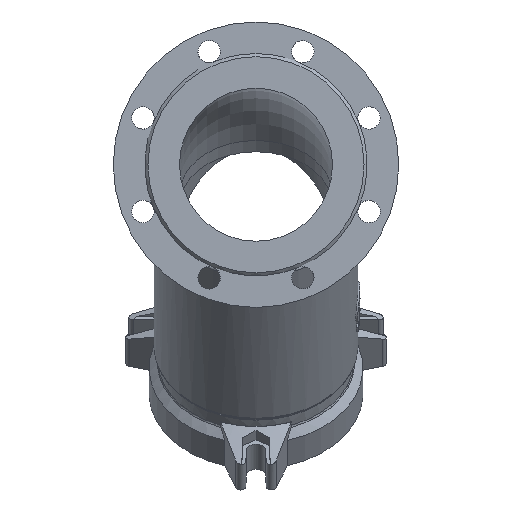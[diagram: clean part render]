
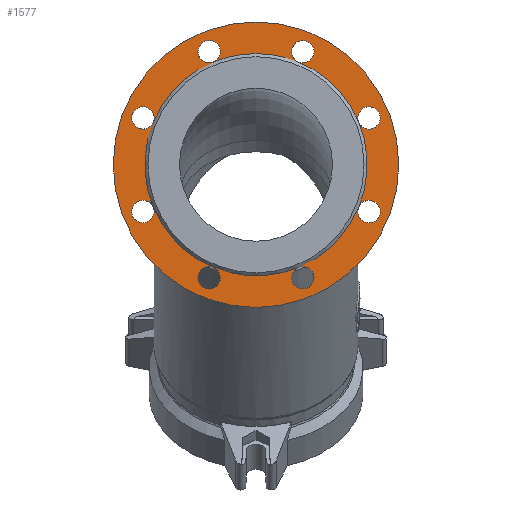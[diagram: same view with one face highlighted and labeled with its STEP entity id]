
A CAD part, front view. The second image highlights one B-rep face of the part: STEP entity #1577.
In plain terms, the highlighted planar face has unit normal (0, -1, 0).
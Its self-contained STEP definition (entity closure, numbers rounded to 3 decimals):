
#1577=ADVANCED_FACE('',(#4282,#4284,#4286,#4288,#4290,#4292,#4294,#4296,#4298,#4300),
#4302,.T.);
#4282=FACE_BOUND('',#4283,.T.);
#4283=EDGE_LOOP('',(#5306));
#4284=FACE_BOUND('',#4285,.T.);
#4285=EDGE_LOOP('',(#5307,#5308));
#4286=FACE_BOUND('',#4287,.T.);
#4287=EDGE_LOOP('',(#5309));
#4288=FACE_BOUND('',#4289,.T.);
#4289=EDGE_LOOP('',(#5310,#5311,#5312,#5313,#5314,#5315,#5316));
#4290=FACE_BOUND('',#4291,.T.);
#4291=EDGE_LOOP('',(#5317));
#4292=FACE_BOUND('',#4293,.T.);
#4293=EDGE_LOOP('',(#5318,#5319));
#4294=FACE_BOUND('',#4295,.T.);
#4295=EDGE_LOOP('',(#5320,#5321));
#4296=FACE_BOUND('',#4297,.T.);
#4297=EDGE_LOOP('',(#5322,#5323));
#4298=FACE_BOUND('',#4299,.T.);
#4299=EDGE_LOOP('',(#5324,#5325));
#4300=FACE_BOUND('',#4301,.T.);
#4301=EDGE_LOOP('',(#5326,#5327));
#4302=PLANE('',#4303);
#4303=AXIS2_PLACEMENT_3D('',#4304,#4305,#4306);
#4304=CARTESIAN_POINT('',(0.,3.,0.));
#4305=DIRECTION('',(0.,-1.,0.));
#4306=DIRECTION('',(0.,0.,1.));
#5306=ORIENTED_EDGE('',*,*,#5797,.T.);
#5307=ORIENTED_EDGE('',*,*,#5809,.T.);
#5308=ORIENTED_EDGE('',*,*,#5810,.T.);
#5309=ORIENTED_EDGE('',*,*,#5798,.T.);
#5310=ORIENTED_EDGE('',*,*,#5813,.F.);
#5311=ORIENTED_EDGE('',*,*,#5814,.F.);
#5312=ORIENTED_EDGE('',*,*,#5815,.F.);
#5313=ORIENTED_EDGE('',*,*,#5816,.F.);
#5314=ORIENTED_EDGE('',*,*,#5817,.F.);
#5315=ORIENTED_EDGE('',*,*,#5818,.F.);
#5316=ORIENTED_EDGE('',*,*,#5819,.F.);
#5317=ORIENTED_EDGE('',*,*,#5811,.T.);
#5318=ORIENTED_EDGE('',*,*,#5800,.T.);
#5319=ORIENTED_EDGE('',*,*,#5799,.T.);
#5320=ORIENTED_EDGE('',*,*,#5802,.T.);
#5321=ORIENTED_EDGE('',*,*,#5801,.T.);
#5322=ORIENTED_EDGE('',*,*,#5804,.T.);
#5323=ORIENTED_EDGE('',*,*,#5803,.T.);
#5324=ORIENTED_EDGE('',*,*,#5806,.T.);
#5325=ORIENTED_EDGE('',*,*,#5805,.T.);
#5326=ORIENTED_EDGE('',*,*,#5807,.T.);
#5327=ORIENTED_EDGE('',*,*,#5808,.T.);
#5797=EDGE_CURVE('',#6564,#6564,#6565,.T.);
#5798=EDGE_CURVE('',#6566,#6566,#6567,.F.);
#5799=EDGE_CURVE('',#6568,#6569,#6570,.F.);
#5800=EDGE_CURVE('',#6569,#6568,#6571,.F.);
#5801=EDGE_CURVE('',#6572,#6573,#6574,.F.);
#5802=EDGE_CURVE('',#6573,#6572,#6575,.F.);
#5803=EDGE_CURVE('',#6576,#6577,#6578,.F.);
#5804=EDGE_CURVE('',#6577,#6576,#6579,.F.);
#5805=EDGE_CURVE('',#6580,#6581,#6582,.F.);
#5806=EDGE_CURVE('',#6581,#6580,#6583,.F.);
#5807=EDGE_CURVE('',#6584,#6585,#6586,.F.);
#5808=EDGE_CURVE('',#6585,#6584,#6587,.F.);
#5809=EDGE_CURVE('',#6588,#6589,#6590,.F.);
#5810=EDGE_CURVE('',#6589,#6588,#6591,.F.);
#5811=EDGE_CURVE('',#6592,#6592,#6593,.F.);
#5813=EDGE_CURVE('',#6569,#6588,#6596,.T.);
#5814=EDGE_CURVE('',#6573,#6569,#6597,.T.);
#5815=EDGE_CURVE('',#6577,#6573,#6598,.T.);
#5816=EDGE_CURVE('',#6581,#6577,#6599,.T.);
#5817=EDGE_CURVE('',#6584,#6581,#6600,.T.);
#5818=EDGE_CURVE('',#6601,#6584,#6602,.T.);
#5819=EDGE_CURVE('',#6588,#6601,#6603,.T.);
#6564=VERTEX_POINT('',#11451);
#6565=CIRCLE('',#11452,140.);
#6566=VERTEX_POINT('',#11456);
#6567=CIRCLE('',#11457,11.);
#6568=VERTEX_POINT('',#11461);
#6569=VERTEX_POINT('',#11462);
#6570=CIRCLE('',#11463,11.);
#6571=CIRCLE('',#11467,11.);
#6572=VERTEX_POINT('',#11471);
#6573=VERTEX_POINT('',#11472);
#6574=CIRCLE('',#11473,11.);
#6575=CIRCLE('',#11477,11.);
#6576=VERTEX_POINT('',#11481);
#6577=VERTEX_POINT('',#11482);
#6578=CIRCLE('',#11483,11.);
#6579=CIRCLE('',#11487,11.);
#6580=VERTEX_POINT('',#11491);
#6581=VERTEX_POINT('',#11492);
#6582=CIRCLE('',#11493,11.);
#6583=CIRCLE('',#11497,11.);
#6584=VERTEX_POINT('',#11501);
#6585=VERTEX_POINT('',#11502);
#6586=CIRCLE('',#11503,11.);
#6587=CIRCLE('',#11507,11.);
#6588=VERTEX_POINT('',#11511);
#6589=VERTEX_POINT('',#11512);
#6590=CIRCLE('',#11513,11.);
#6591=CIRCLE('',#11517,11.);
#6592=VERTEX_POINT('',#11521);
#6593=CIRCLE('',#11522,11.);
#6596=CIRCLE('',#11531,109.);
#6597=CIRCLE('',#11535,109.);
#6598=CIRCLE('',#11539,109.);
#6599=CIRCLE('',#11543,109.);
#6600=CIRCLE('',#11547,109.);
#6601=VERTEX_POINT('',#11551);
#6602=CIRCLE('',#11552,109.);
#6603=CIRCLE('',#11556,109.);
#11451=CARTESIAN_POINT('',(0.,3.,140.));
#11452=AXIS2_PLACEMENT_3D('',#11453,#11454,#11455);
#11453=CARTESIAN_POINT('',(0.,3.,0.));
#11454=DIRECTION('',(0.,-1.,0.));
#11455=DIRECTION('',(0.,0.,1.));
#11456=CARTESIAN_POINT('',(110.866,3.,-56.922));
#11457=AXIS2_PLACEMENT_3D('',#11458,#11459,#11460);
#11458=CARTESIAN_POINT('',(110.866,3.,-45.922));
#11459=DIRECTION('',(0.,-1.,0.));
#11460=DIRECTION('',(0.,0.,-1.));
#11461=CARTESIAN_POINT('',(38.144,3.,-118.644));
#11462=CARTESIAN_POINT('',(41.712,3.,-100.703));
#11463=AXIS2_PLACEMENT_3D('',#11464,#11465,#11466);
#11464=CARTESIAN_POINT('',(45.922,3.,-110.866));
#11465=DIRECTION('',(0.,-1.,0.));
#11466=DIRECTION('',(-0.383,0.,0.924));
#11467=AXIS2_PLACEMENT_3D('',#11468,#11469,#11470);
#11468=CARTESIAN_POINT('',(45.922,3.,-110.866));
#11469=DIRECTION('',(0.,-1.,0.));
#11470=DIRECTION('',(-0.707,0.,-0.707));
#11471=CARTESIAN_POINT('',(-56.922,3.,-110.866));
#11472=CARTESIAN_POINT('',(-41.712,3.,-100.703));
#11473=AXIS2_PLACEMENT_3D('',#11474,#11475,#11476);
#11474=CARTESIAN_POINT('',(-45.922,3.,-110.866));
#11475=DIRECTION('',(0.,-1.,0.));
#11476=DIRECTION('',(0.383,0.,0.924));
#11477=AXIS2_PLACEMENT_3D('',#11478,#11479,#11480);
#11478=CARTESIAN_POINT('',(-45.922,3.,-110.866));
#11479=DIRECTION('',(0.,-1.,0.));
#11480=DIRECTION('',(-1.,0.,0.));
#11481=CARTESIAN_POINT('',(-118.644,3.,-38.144));
#11482=CARTESIAN_POINT('',(-100.703,3.,-41.712));
#11483=AXIS2_PLACEMENT_3D('',#11484,#11485,#11486);
#11484=CARTESIAN_POINT('',(-110.866,3.,-45.922));
#11485=DIRECTION('',(0.,-1.,0.));
#11486=DIRECTION('',(0.924,0.,0.383));
#11487=AXIS2_PLACEMENT_3D('',#11488,#11489,#11490);
#11488=CARTESIAN_POINT('',(-110.866,3.,-45.922));
#11489=DIRECTION('',(0.,-1.,0.));
#11490=DIRECTION('',(-0.707,0.,0.707));
#11491=CARTESIAN_POINT('',(-110.866,3.,56.922));
#11492=CARTESIAN_POINT('',(-100.703,3.,41.712));
#11493=AXIS2_PLACEMENT_3D('',#11494,#11495,#11496);
#11494=CARTESIAN_POINT('',(-110.866,3.,45.922));
#11495=DIRECTION('',(0.,-1.,0.));
#11496=DIRECTION('',(0.924,0.,-0.383));
#11497=AXIS2_PLACEMENT_3D('',#11498,#11499,#11500);
#11498=CARTESIAN_POINT('',(-110.866,3.,45.922));
#11499=DIRECTION('',(0.,-1.,0.));
#11500=DIRECTION('',(0.,0.,1.));
#11501=CARTESIAN_POINT('',(-41.712,3.,100.703));
#11502=CARTESIAN_POINT('',(-38.144,3.,118.644));
#11503=AXIS2_PLACEMENT_3D('',#11504,#11505,#11506);
#11504=CARTESIAN_POINT('',(-45.922,3.,110.866));
#11505=DIRECTION('',(0.,-1.,0.));
#11506=DIRECTION('',(0.707,0.,0.707));
#11507=AXIS2_PLACEMENT_3D('',#11508,#11509,#11510);
#11508=CARTESIAN_POINT('',(-45.922,3.,110.866));
#11509=DIRECTION('',(0.,-1.,0.));
#11510=DIRECTION('',(0.383,0.,-0.924));
#11511=CARTESIAN_POINT('',(41.712,3.,100.703));
#11512=CARTESIAN_POINT('',(56.922,3.,110.866));
#11513=AXIS2_PLACEMENT_3D('',#11514,#11515,#11516);
#11514=CARTESIAN_POINT('',(45.922,3.,110.866));
#11515=DIRECTION('',(0.,-1.,0.));
#11516=DIRECTION('',(1.,0.,0.));
#11517=AXIS2_PLACEMENT_3D('',#11518,#11519,#11520);
#11518=CARTESIAN_POINT('',(45.922,3.,110.866));
#11519=DIRECTION('',(0.,-1.,0.));
#11520=DIRECTION('',(-0.383,0.,-0.924));
#11521=CARTESIAN_POINT('',(118.644,3.,38.144));
#11522=AXIS2_PLACEMENT_3D('',#11523,#11524,#11525);
#11523=CARTESIAN_POINT('',(110.866,3.,45.922));
#11524=DIRECTION('',(0.,-1.,0.));
#11525=DIRECTION('',(0.707,0.,-0.707));
#11531=AXIS2_PLACEMENT_3D('',#11532,#11533,#11534);
#11532=CARTESIAN_POINT('',(0.,3.,0.));
#11533=DIRECTION('',(0.,-1.,0.));
#11534=DIRECTION('',(0.383,0.,-0.924));
#11535=AXIS2_PLACEMENT_3D('',#11536,#11537,#11538);
#11536=CARTESIAN_POINT('',(0.,3.,0.));
#11537=DIRECTION('',(0.,-1.,0.));
#11538=DIRECTION('',(-0.383,0.,-0.924));
#11539=AXIS2_PLACEMENT_3D('',#11540,#11541,#11542);
#11540=CARTESIAN_POINT('',(0.,3.,0.));
#11541=DIRECTION('',(0.,-1.,0.));
#11542=DIRECTION('',(-0.924,0.,-0.383));
#11543=AXIS2_PLACEMENT_3D('',#11544,#11545,#11546);
#11544=CARTESIAN_POINT('',(0.,3.,0.));
#11545=DIRECTION('',(0.,-1.,0.));
#11546=DIRECTION('',(-0.924,0.,0.383));
#11547=AXIS2_PLACEMENT_3D('',#11548,#11549,#11550);
#11548=CARTESIAN_POINT('',(0.,3.,0.));
#11549=DIRECTION('',(0.,-1.,0.));
#11550=DIRECTION('',(-0.383,0.,0.924));
#11551=CARTESIAN_POINT('',(0.,3.,109.));
#11552=AXIS2_PLACEMENT_3D('',#11553,#11554,#11555);
#11553=CARTESIAN_POINT('',(0.,3.,0.));
#11554=DIRECTION('',(0.,-1.,0.));
#11555=DIRECTION('',(0.,0.,1.));
#11556=AXIS2_PLACEMENT_3D('',#11557,#11558,#11559);
#11557=CARTESIAN_POINT('',(0.,3.,0.));
#11558=DIRECTION('',(0.,-1.,0.));
#11559=DIRECTION('',(0.383,0.,0.924));
